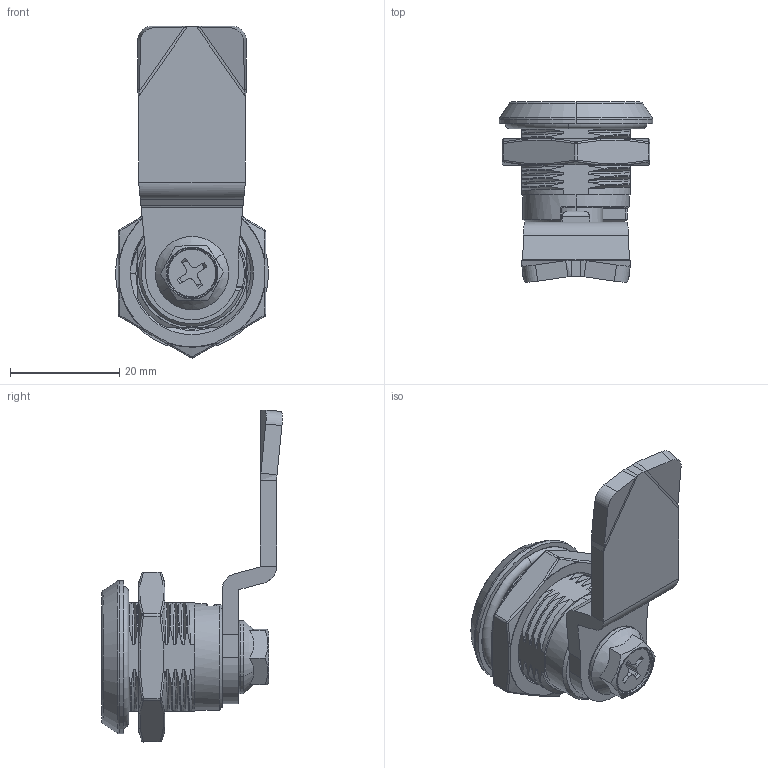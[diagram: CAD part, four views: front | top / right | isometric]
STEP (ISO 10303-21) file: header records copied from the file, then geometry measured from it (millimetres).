
FILE_DESCRIPTION (( 'STEP AP214' ), '1' );
FILE_NAME ('CUYUE.D1-1401-047.STEP', '2026-06-16T02:27:56', ( '' ), ( '' ), 'SwSTEP 2.0', 'SolidWorks 2020', '' );
FILE_SCHEMA (( 'AUTOMOTIVE_DESIGN' ));
Length unit declared in the file: millimetre
Products named in the file (9): 2X26密封圈; 10.2X0.3等疏え; M6X8蹟隊; D1-1401-013坶褲; 2X16密封圈; CUYUE.D1-1401-047; CAM4507; D1-1401-047坶郋; J-M22蹟譫
Assembly tree (9 placements, depth 2):
  CUYUE.D1-1401-047
    D1-1401-013坶褲
    2X16密封圈  x2
    2X26密封圈
    10.2X0.3等疏え
    CAM4507
    M6X8蹟隊
    D1-1401-047坶郋
    J-M22蹟譫
Bounding box: 28 x 33.01 x 60.66 mm (x, y, z)
Volume: 11712.7 mm3; surface area: 11243.3 mm2
Topology: 9 solids, 9 shells, 542 faces, 1376 edges, 855 vertices
Faces by surface type: bspline 189, cylinder 163, plane 109, cone 48, torus 33
Entity records: 53474 total; most frequent: CARTESIAN_POINT 42067, ORIENTED_EDGE 2732, DIRECTION 1749, EDGE_CURVE 1366, VERTEX_POINT 851, AXIS2_PLACEMENT_3D 668, EDGE_LOOP 557, FACE_OUTER_BOUND 538
